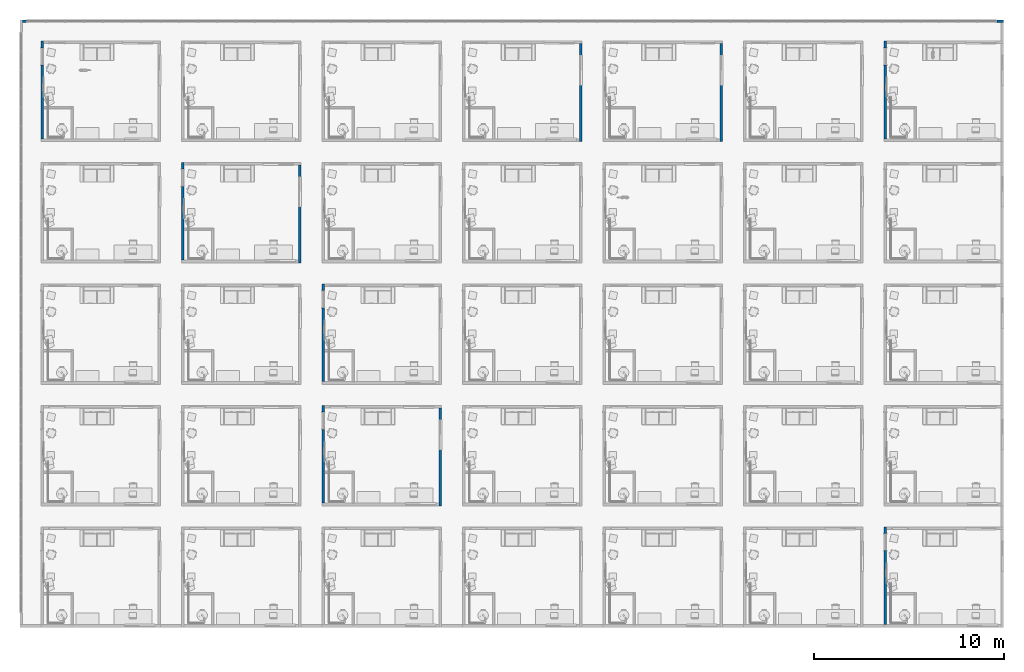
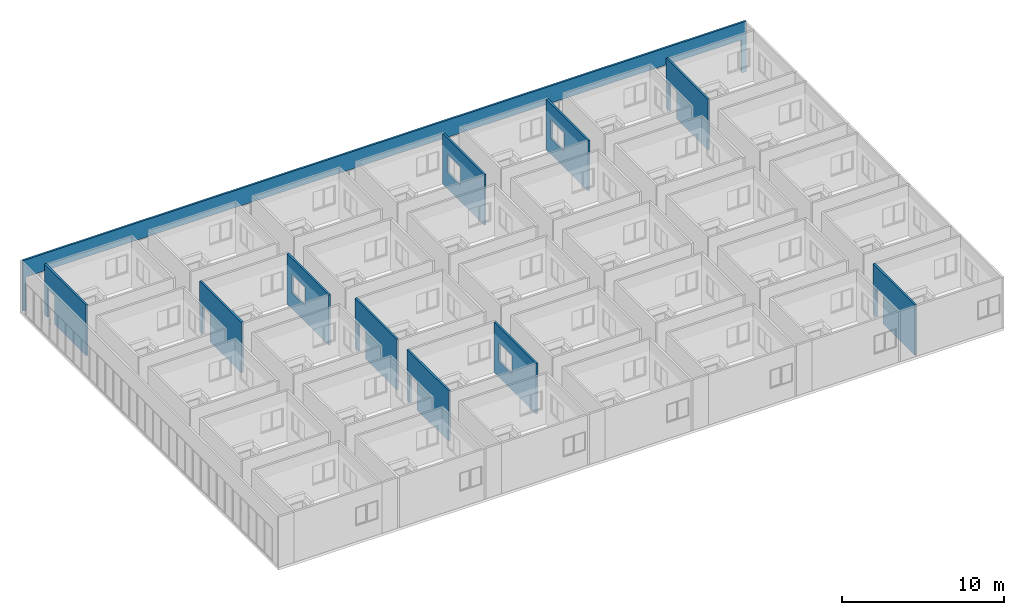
# One storey, part 11 of 71: 11 walls, 11 openings.
"""IFC4 building model written with IfcOpenShell, lengths in centimetres."""

import ifcopenshell
import ifcopenshell.guid

model = None  # the IFC model being written
_history = None  # IfcOwnerHistory: only IFC2X3 demands one
_inside = {}  # id of a spatial element -> (the spatial element, [elements in it])
_under = {}  # id of a project, library or spatial element -> (it, [spatial elements below it])
_declared = {}  # id of a project -> (the project, [libraries it declares])
_typed = {}  # id of a type object -> (the type object, [elements of that type])
_made_of = {}  # id of a material, layer set ... -> (it, [elements and type objects made of it])


def new_model(schema):
    """Start an empty IFC model of exactly this schema.

    Asked for "IFC4X3", IfcOpenShell would pick the latest addendum, in which some entities
    have other attributes; the version numbers below select the first issue.
    IFC2X3 requires an IfcOwnerHistory on every rooted entity: one is made here for all.
    """
    global model, _history
    if schema == "IFC4X3":
        model = ifcopenshell.file(schema_version=(4, 3, 0, 0))
    else:
        model = ifcopenshell.file(schema=schema)
    _inside.clear()
    _under.clear()
    _declared.clear()
    _typed.clear()
    _made_of.clear()
    _history = None
    if model.schema == "IFC2X3":
        org = make("IfcOrganization", Name="unknown")
        user = make(
            "IfcPersonAndOrganization",
            ThePerson=make("IfcPerson", FamilyName="unknown"),
            TheOrganization=org,
        )
        app = make(
            "IfcApplication",
            ApplicationDeveloper=org,
            Version="unknown",
            ApplicationFullName="unknown",
            ApplicationIdentifier="unknown",
        )
        _history = make(
            "IfcOwnerHistory",
            OwningUser=user,
            OwningApplication=app,
            ChangeAction="ADDED",
            CreationDate=0,
        )
    return model


def make(cls, **values):
    """One entity of the class cls with the attributes given. An attribute that is None is left unset."""
    return model.create_entity(
        cls, **{name: value for name, value in values.items() if value is not None}
    )


def entity(cls, *values):
    """Any entity or typed value of the class cls, its attributes in the order of the schema. None: left unset."""
    e = model.create_entity(cls)
    for i, value in enumerate(values):
        if value is not None:
            e[i] = value
    return e


def rooted(cls, **values):
    """An entity with a GlobalId (a new one), such as an element, a storey or a relation."""
    return make(cls, GlobalId=ifcopenshell.guid.new(), OwnerHistory=_history, **values)


def si_unit(unit_type, name, prefix=None):
    """IfcSIUnit, for example si_unit("LENGTHUNIT", "METRE", prefix="MILLI")."""
    return make("IfcSIUnit", UnitType=unit_type, Prefix=prefix, Name=name)


def converted_unit(unit_type, name, factor, base, dimensions=None, offset=None):
    """IfcConversionBasedUnit, such as the inch: factor (a typed value) times the base unit."""
    return make(
        "IfcConversionBasedUnit"
        if offset is None
        else "IfcConversionBasedUnitWithOffset",
        ConversionOffset=offset,
        Dimensions=None
        if dimensions is None
        else entity("IfcDimensionalExponents", *dimensions),
        UnitType=unit_type,
        Name=name,
        ConversionFactor=make(
            "IfcMeasureWithUnit", ValueComponent=factor, UnitComponent=base
        ),
    )


def derived_unit(unit_type, elements):
    """IfcDerivedUnit: a product of units, each with its exponent."""
    return make(
        "IfcDerivedUnit",
        Elements=[
            make("IfcDerivedUnitElement", Unit=unit, Exponent=power)
            for unit, power in elements
        ],
        UnitType=unit_type,
    )


def assignment(units):
    """IfcUnitAssignment: the units of a project."""
    return None if units is None else make("IfcUnitAssignment", Units=units)


def point(xyz):
    """IfcCartesianPoint."""
    return None if xyz is None else make("IfcCartesianPoint", Coordinates=xyz)


def direction(xyz):
    """IfcDirection."""
    return None if xyz is None else make("IfcDirection", DirectionRatios=xyz)


def frame(location, z_axis=None, x_axis=None):
    """IfcAxis2Placement3D, a coordinate frame: its origin and axes. An axis left out is left unset."""
    return make(
        "IfcAxis2Placement3D",
        Location=point(location),
        Axis=direction(z_axis),
        RefDirection=direction(x_axis),
    )


def origin():
    """The frame at (0, 0, 0) with its axes left unset."""
    return frame((0.0, 0.0, 0.0))


def place(relative_to, where):
    """IfcLocalPlacement: puts the frame where relative to a parent placement (None: the world)."""
    return make(
        "IfcLocalPlacement", PlacementRelTo=relative_to, RelativePlacement=where
    )


def context(
    kind, dimensions, precision=None, world=None, true_north=None, identifier=None
):
    """IfcGeometricRepresentationContext, for example the 3D "Model" context."""
    return make(
        "IfcGeometricRepresentationContext",
        ContextIdentifier=identifier,
        ContextType=kind,
        CoordinateSpaceDimension=dimensions,
        Precision=precision,
        WorldCoordinateSystem=world,
        TrueNorth=true_north,
    )


def subcontext(parent, identifier, kind, view, scale=None):
    """IfcGeometricRepresentationSubContext, for example "Body" below "Model"."""
    return make(
        "IfcGeometricRepresentationSubContext",
        ContextIdentifier=identifier,
        ContextType=kind,
        ParentContext=parent,
        TargetScale=scale,
        TargetView=view,
    )


def project(units=None, contexts=None):
    """IfcProject with its units and contexts."""
    return rooted(
        "IfcProject",
        Name="project",
        RepresentationContexts=contexts,
        UnitsInContext=assignment(units),
    )


def spatial(cls, under=None, at=None, **own):
    """A site, building, storey or space (cls), placed at a placement, below another one or the project."""
    s = rooted(cls, ObjectPlacement=at, **own)
    if under is not None:
        _under.setdefault(under.id(), (under, []))[1].append(s)
    return s


def point_list(points):
    """IfcCartesianPointList2D or 3D."""
    cls = (
        "IfcCartesianPointList2D" if len(points[0]) == 2 else "IfcCartesianPointList3D"
    )
    return make(cls, CoordList=points)


def indexed_curve(points, segments=None, self_intersect=None):
    """IfcIndexedPolyCurve: lines and arcs through numbered points (the first is 1)."""
    return make(
        "IfcIndexedPolyCurve",
        Points=point_list(points),
        Segments=segments,
        SelfIntersect=self_intersect,
    )


def outline(outer, holes=None, kind="AREA"):
    """IfcArbitraryClosedProfileDef: a profile drawn as a closed curve; with holes, ...WithVoids."""
    if holes is None:
        return make("IfcArbitraryClosedProfileDef", ProfileType=kind, OuterCurve=outer)
    return make(
        "IfcArbitraryProfileDefWithVoids",
        ProfileType=kind,
        OuterCurve=outer,
        InnerCurves=holes,
    )


def extrude(swept, where, along, depth):
    """IfcExtrudedAreaSolid: the profile swept, set in the frame where, extruded along a direction by depth."""
    return make(
        "IfcExtrudedAreaSolid",
        SweptArea=swept,
        Position=where,
        ExtrudedDirection=direction(along),
        Depth=depth,
    )


def polygons(points, faces, closed=None, point_numbers=None):
    """IfcPolygonalFaceSet: a face is its outer loop, then its inner loops; points numbered from 1."""
    made = []
    for loops in faces:
        if len(loops) == 1:
            made.append(make("IfcIndexedPolygonalFace", CoordIndex=loops[0]))
        else:
            made.append(
                make(
                    "IfcIndexedPolygonalFaceWithVoids",
                    CoordIndex=loops[0],
                    InnerCoordIndices=loops[1:],
                )
            )
    return make(
        "IfcPolygonalFaceSet",
        Coordinates=point_list(points),
        Closed=closed,
        Faces=made,
        PnIndex=point_numbers,
    )


def shape(context_of_items, identifier, shape_type, items):
    """IfcShapeRepresentation: the items that make up one representation, for example the "Body"."""
    return make(
        "IfcShapeRepresentation",
        ContextOfItems=context_of_items,
        RepresentationIdentifier=identifier,
        RepresentationType=shape_type,
        Items=items,
    )


def material(Name=None, Category=None):
    """IfcMaterial."""
    return make("IfcMaterial", Name=Name, Category=Category)


def made_of(thing, what):
    """Note that an element or type object is made of a material, layer set ...; save() writes the relation."""
    if what is not None:
        _made_of.setdefault(what.id(), (what, []))[1].append(thing)
    return thing


def type_object(cls, material=None, **own):
    """A type object (cls), such as IfcWallType, which elements share."""
    return made_of(rooted(cls, **own), material)


def element(
    cls,
    number,
    at=None,
    inside=None,
    cuts=None,
    type_object=None,
    material=None,
    context=None,
    identifier="Body",
    shape_type=None,
    held_by="IfcProductDefinitionShape",
    body=None,
    shapes=None,
    **own,
):
    """One element of the class cls, such as IfcWall. Its Tag is "e" and its number.

    at: its placement. inside: the storey or other place that contains it. cuts: it is an
    opening in that element (IfcRelVoidsElement). A single representation is given by context,
    identifier, shape_type and body (its items); several are given by shapes. held_by: the class
    of the entity that holds the representations. save() writes the other relations.
    """
    e = rooted(cls, Tag="e%d" % number, ObjectPlacement=at, **own)
    if body is not None:
        shapes = [shape(context, identifier, shape_type, body)]
    if shapes is not None:
        e.Representation = make(held_by, Representations=shapes)
    if inside is not None:
        _inside.setdefault(inside.id(), (inside, []))[1].append(e)
    if cuts is not None:
        rooted(
            "IfcRelVoidsElement", RelatingBuildingElement=cuts, RelatedOpeningElement=e
        )
    if type_object is not None:
        _typed.setdefault(type_object.id(), (type_object, []))[1].append(e)
    return made_of(e, material)


def aggregate(whole, parts):
    """IfcRelAggregates: a whole, such as a stair, and the parts it consists of."""
    return rooted("IfcRelAggregates", RelatingObject=whole, RelatedObjects=parts)


def save(model, path):
    """Write the relations noted so far, then the file.

    IfcRelAggregates (storeys below a building ...), IfcRelContainedInSpatialStructure (elements
    in a storey), IfcRelDefinesByType, IfcRelAssociatesMaterial and IfcRelDeclares: one each for
    every whole, place, type object, material and project.
    """
    for whole, parts in _under.values():
        aggregate(whole, parts)
    for where, things in _inside.values():
        rooted(
            "IfcRelContainedInSpatialStructure",
            RelatedElements=things,
            RelatingStructure=where,
        )
    for kind, things in _typed.values():
        rooted("IfcRelDefinesByType", RelatedObjects=things, RelatingType=kind)
    for what, things in _made_of.values():
        rooted("IfcRelAssociatesMaterial", RelatedObjects=things, RelatingMaterial=what)
    for by, libraries in _declared.values():
        rooted("IfcRelDeclares", RelatingContext=by, RelatedDefinitions=libraries)
    model.write(path)


model = new_model("IFC4")

# Units and contexts
model_context = context("Model", 3, precision=0.001, world=origin(), true_north=direction((6.123233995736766e-17, 1.0)))
body_context = subcontext(model_context, "Body", "Model", "MODEL_VIEW")
ifc_project = project(units=[si_unit("LENGTHUNIT", "METRE", prefix="CENTI"), si_unit("AREAUNIT", "SQUARE_METRE"), si_unit("VOLUMEUNIT", "CUBIC_METRE"), derived_unit("THERMALTRANSMITTANCEUNIT", [(si_unit("MASSUNIT", "GRAM", prefix="KILO"), 1), (si_unit("THERMODYNAMICTEMPERATUREUNIT", "KELVIN"), -1), (si_unit("TIMEUNIT", "SECOND"), -3)]), converted_unit("PLANEANGLEUNIT", "DEGREE", entity("IfcPlaneAngleMeasure", 0.017453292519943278), si_unit("PLANEANGLEUNIT", "RADIAN"), dimensions=[0, 0, 0, 0, 0, 0, 0]), derived_unit("MASSDENSITYUNIT", [(si_unit("MASSUNIT", "GRAM", prefix="KILO"), 1), (si_unit("LENGTHUNIT", "METRE"), -3)]), derived_unit("VAPORPERMEABILITYUNIT", [(si_unit("LENGTHUNIT", "METRE"), -1), (si_unit("TIMEUNIT", "SECOND"), 1)]), derived_unit("USERDEFINED", [(si_unit("MASSUNIT", "GRAM", prefix="KILO"), 1), (si_unit("TIMEUNIT", "SECOND"), -3), (si_unit("LENGTHUNIT", "METRE"), 3), (si_unit("ELECTRICCURRENTUNIT", "AMPERE"), -2)]), derived_unit("SPECIFICHEATCAPACITYUNIT", [(si_unit("THERMODYNAMICTEMPERATUREUNIT", "KELVIN"), -1), (si_unit("LENGTHUNIT", "METRE"), 2), (si_unit("TIMEUNIT", "SECOND"), -2)]), derived_unit("THERMALCONDUCTANCEUNIT", [(si_unit("MASSUNIT", "GRAM", prefix="KILO"), 1), (si_unit("THERMODYNAMICTEMPERATUREUNIT", "KELVIN"), -1), (si_unit("TIMEUNIT", "SECOND"), -3), (si_unit("LENGTHUNIT", "METRE"), 1)]), si_unit("PRESSUREUNIT", "PASCAL"), derived_unit("MODULUSOFELASTICITYUNIT", [(si_unit("MASSUNIT", "GRAM", prefix="KILO"), 1), (si_unit("LENGTHUNIT", "METRE"), -1), (si_unit("TIMEUNIT", "SECOND"), -2)]), derived_unit("THERMALEXPANSIONCOEFFICIENTUNIT", [(si_unit("THERMODYNAMICTEMPERATUREUNIT", "KELVIN"), -1)])], contexts=[model_context])

# Site, building, storey
site_placement = place(None, origin())
site = spatial("IfcSite", under=ifc_project, at=site_placement, Name="Default", CompositionType="ELEMENT")
building_placement = place(site_placement, origin())
building = spatial("IfcBuilding", under=site, at=building_placement, Name="IDS Escape Game Building", CompositionType="ELEMENT")
storey_placement = place(building_placement, frame((0.0, 0.0, 400.0)))
storey = spatial("IfcBuildingStorey", under=building, at=storey_placement, Name="01_First Floor", CompositionType="ELEMENT", Elevation=399.99999999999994)

# Wall, opening
ifc_material = material(Name="ARC_FME.g2_Fg2 Masonry_00_gen_BERSnl", Category="g - klei")
wall_type = type_object("IfcWallType", Name="Basic Wall:ARC_22.10_WA_LB_SB14_gen_BERSnl", PredefinedType="STANDARD")
wall_1_placement = place(storey_placement, frame((4428.0, 527.0, 0.0), z_axis=(0.0, 0.0, 1.0), x_axis=(0.0, -1.0, 0.0)))
wall_1 = element("IfcWall", 1, at=wall_1_placement, inside=storey, type_object=wall_type, material=ifc_material, Name="Basic Wall:ARC_22.10_WA_LB_SB14_gen_BERSnl", ObjectType="Basic Wall:ARC_22.10_WA_LB_SB14_gen_BERSnl", PredefinedType="NOTDEFINED", context=body_context, shape_type="Tessellation", body=[
    polygons([(513.9999999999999, -7.000000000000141, 379.9999999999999), (0.0, -7.000000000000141, 379.9999999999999), (0.0, -7.000000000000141, 0.0), (35.99999999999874, -7.000000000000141, 0.0), (35.99999999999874, -7.000000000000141, 215.00000000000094), (125.99999999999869, -7.000000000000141, 215.00000000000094), (125.99999999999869, -7.000000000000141, 0.0), (513.9999999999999, -7.000000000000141, 0.0), (0.0, 7.000000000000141, 379.9999999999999), (13.999999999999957, 7.000000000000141, 380.0), (513.9999999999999, 7.000000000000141, 379.9999999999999), (513.9999999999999, 7.000000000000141, 0.0), (355.9999999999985, 7.000000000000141, 0.0), (345.9999999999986, 7.000000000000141, 0.0), (125.99999999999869, 7.000000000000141, 0.0), (125.99999999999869, 7.000000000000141, 215.00000000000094), (35.99999999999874, 7.000000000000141, 215.00000000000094), (35.99999999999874, 7.000000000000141, 0.0), (13.999999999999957, 7.000000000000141, 0.0), (0.0, 7.000000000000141, 0.0)], [[[1, 2, 3, 4, 5, 6, 7, 8]], [[9, 10, 11, 12, 13, 14, 15, 16, 17, 18, 19, 20]], [[3, 20, 19, 18, 4]], [[2, 1, 11, 10, 9]], [[17, 5, 4, 18]], [[6, 16, 15, 7]], [[5, 17, 16, 6]], [[3, 2, 9, 20]], [[1, 8, 12, 11]], [[12, 8, 7, 15, 14, 13]]], closed=True),
])
opening_1_placement = place(wall_1_placement, frame((527.0, -4428.0, 0.0), z_axis=(0.0, 0.0, 1.0), x_axis=(0.0, 1.0, 0.0)))
element("IfcOpeningElement", 2, at=opening_1_placement, cuts=wall_1, Name="Basic Wall:ARC_22.10_WA_LB_SB14_gen_BERSnl", PredefinedType="OPENING", context=body_context, shape_type="SweptSolid", body=[
    extrude(outline(indexed_curve([(-137.49999999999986, -45.0), (137.49999999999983, -45.0), (137.49999999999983, 44.99999999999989), (-137.49999999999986, 44.99999999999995), (-137.49999999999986, -45.0)], self_intersect=False)), frame((4338.0, 446.0, 77.50000000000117), z_axis=(1.0, 0.0, 0.0), x_axis=(0.0, 0.0, 1.0)), (0.0, 0.0, 1.0), 166.00000000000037),
])

wall_2_placement = place(storey_placement, frame((1476.0, 1165.0, 0.0), z_axis=(0.0, 0.0, 1.0), x_axis=(0.0, -1.0, 0.0)))
wall_2 = element("IfcWall", 3, at=wall_2_placement, inside=storey, type_object=wall_type, material=ifc_material, Name="Basic Wall:ARC_22.10_WA_LB_SB14_gen_BERSnl", ObjectType="Basic Wall:ARC_22.10_WA_LB_SB14_gen_BERSnl", PredefinedType="NOTDEFINED", context=body_context, shape_type="Tessellation", body=[
    polygons([(514.0000000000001, -7.000000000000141, 379.9999999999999), (0.0, -7.000000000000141, 379.9999999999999), (0.0, -7.000000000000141, 0.0), (35.99999999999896, -7.000000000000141, 0.0), (35.99999999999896, -7.000000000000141, 215.00000000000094), (125.99999999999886, -7.000000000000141, 215.00000000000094), (125.99999999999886, -7.000000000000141, 0.0), (514.0000000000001, -7.000000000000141, 0.0), (0.0, 7.000000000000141, 379.9999999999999), (14.000000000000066, 6.9999999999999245, 380.0), (514.0000000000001, 7.000000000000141, 379.9999999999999), (514.0000000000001, 7.000000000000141, 0.0), (355.99999999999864, 6.9999999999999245, 0.0), (345.99999999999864, 6.9999999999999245, 0.0), (125.99999999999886, 7.000000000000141, 0.0), (125.99999999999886, 7.000000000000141, 215.00000000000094), (35.99999999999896, 7.000000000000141, 215.00000000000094), (35.99999999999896, 7.000000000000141, 0.0), (14.000000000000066, 6.9999999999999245, 0.0), (0.0, 7.000000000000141, 0.0)], [[[1, 2, 3, 4, 5, 6, 7, 8]], [[9, 10, 11, 12, 13, 14, 15, 16, 17, 18, 19, 20]], [[3, 20, 19, 18, 4]], [[2, 1, 11, 10, 9]], [[17, 5, 4, 18]], [[6, 16, 15, 7]], [[5, 17, 16, 6]], [[3, 2, 9, 20]], [[1, 8, 12, 11]], [[12, 8, 7, 15, 14, 13]]], closed=True),
])
opening_2_placement = place(wall_2_placement, frame((1165.0, -1476.0, 0.0), z_axis=(0.0, 0.0, 1.0), x_axis=(0.0, 1.0, 0.0)))
element("IfcOpeningElement", 4, at=opening_2_placement, cuts=wall_2, Name="Basic Wall:ARC_22.10_WA_LB_SB14_gen_BERSnl", PredefinedType="OPENING", context=body_context, shape_type="SweptSolid", body=[
    extrude(outline(indexed_curve([(-137.49999999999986, -44.99999999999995), (137.49999999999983, -44.99999999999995), (137.49999999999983, 44.99999999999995), (-137.49999999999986, 44.99999999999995), (-137.49999999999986, -44.99999999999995)], self_intersect=False)), frame((1386.0, 1084.0, 77.50000000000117), z_axis=(1.0, 0.0, 0.0), x_axis=(0.0, 0.0, 1.0)), (0.0, 0.0, 1.0), 165.99999999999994),
])

wall_3_placement = place(storey_placement, frame((2090.0, 637.0, 0.0), z_axis=(0.0, 0.0, 1.0), x_axis=(0.0, 1.0, 0.0)))
wall_3 = element("IfcWall", 5, at=wall_3_placement, inside=storey, type_object=wall_type, material=ifc_material, Name="Basic Wall:ARC_22.10_WA_LB_SB14_gen_BERSnl", ObjectType="Basic Wall:ARC_22.10_WA_LB_SB14_gen_BERSnl", PredefinedType="NOTDEFINED", context=body_context, shape_type="Tessellation", body=[
    polygons([(0.0, -6.999999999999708, 0.0), (514.0, -6.999999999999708, 0.0), (514.0, -6.999999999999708, 379.9999999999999), (0.0, -6.999999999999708, 379.9999999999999), (454.0000000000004, -6.999999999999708, 260.0000000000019), (454.0000000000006, -6.999999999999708, 120.0), (294.00000000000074, -6.999999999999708, 120.0), (294.00000000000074, -6.999999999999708, 260.0000000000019), (454.0000000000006, 7.000000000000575, 120.0), (454.0000000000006, 7.000000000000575, 260.0000000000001), (294.00000000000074, 7.000000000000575, 260.0000000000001), (294.00000000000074, 7.000000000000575, 120.0), (0.0, 7.000000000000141, 0.0), (0.0, 7.000000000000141, 379.9999999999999), (13.999999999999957, 7.000000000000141, 380.0), (514.0, 7.000000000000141, 379.9999999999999), (514.0, 7.000000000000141, 0.0), (13.999999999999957, 7.000000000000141, 0.0)], [[[1, 2, 3, 4], [5, 6, 7, 8]], [[13, 14, 15, 16, 17, 18], [9, 10, 11, 12]], [[2, 1, 13, 18, 17]], [[4, 3, 16, 15, 14]], [[10, 9, 6, 5]], [[7, 12, 11, 8]], [[10, 5, 8, 11]], [[12, 7, 6, 9]], [[1, 4, 14, 13]], [[3, 2, 17, 16]]], closed=True),
])
opening_3_placement = place(wall_3_placement, frame((-637.0, 2090.0, 120.0), z_axis=(0.0, 0.0, 1.0), x_axis=(0.0, -1.0, 0.0)))
element("IfcOpeningElement", 6, at=opening_3_placement, cuts=wall_3, Name="Basic Wall:ARC_22.10_WA_LB_SB14_gen_BERSnl", PredefinedType="OPENING", context=body_context, shape_type="Tessellation", body=[
    polygons([(2083.000000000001, 1091.0, 0.0), (2083.000000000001, 1091.0, -1.0), (2078.0000000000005, 1091.0, -1.0), (2078.0000000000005, 1091.0, 0.0), (2083.000000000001, 931.0, 0.0), (2078.0000000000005, 931.0, 0.0), (2078.0000000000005, 931.0, -1.0), (2083.000000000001, 931.0, -1.0), (2083.0000000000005, 1086.0, 0.0), (2083.0000000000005, 936.0, 0.0), (2078.000000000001, 936.0, 0.0), (2077.999999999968, 936.0, 134.99999999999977), (2077.999999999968, 1086.0, 134.99999999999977), (2078.000000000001, 1086.0, 0.0), (2102.036825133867, 1090.9999999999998, 0.0), (2083.0, 1091.0, 0.0), (2083.0, 1091.0, 140.00000000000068), (2102.036825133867, 1091.0, 140.00000000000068), (2102.036825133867, 931.0, 140.0000000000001), (2083.0, 931.0, 140.0000000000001), (2082.9999999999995, 931.0, 0.0), (2102.036825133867, 931.0, 0.0), (2083.0, 1086.0, 134.99999999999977), (2083.0, 936.0, 134.99999999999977)], [[[1, 2, 3, 4]], [[5, 6, 7, 8]], [[1, 9, 10, 5, 8, 2]], [[2, 8, 7, 3]], [[3, 7, 6, 11, 12, 13, 14, 4]], [[4, 14, 9, 1]], [[15, 16, 17, 18]], [[19, 20, 21, 22]], [[18, 17, 20, 19]], [[18, 19, 22, 15]], [[17, 16, 9, 23, 24, 10, 21, 20]], [[22, 21, 10, 9, 16, 15]], [[11, 10, 24, 12]], [[13, 23, 9, 14]], [[12, 24, 23, 13]], [[5, 10, 11, 6]]], closed=True),
])

wall_4_placement = place(storey_placement, frame((1476.0, 1803.0, 0.0), z_axis=(0.0, 0.0, 1.0), x_axis=(0.0, -1.0, 0.0)))
wall_4 = element("IfcWall", 7, at=wall_4_placement, inside=storey, type_object=wall_type, material=ifc_material, Name="Basic Wall:ARC_22.10_WA_LB_SB14_gen_BERSnl", ObjectType="Basic Wall:ARC_22.10_WA_LB_SB14_gen_BERSnl", PredefinedType="NOTDEFINED", context=body_context, shape_type="Tessellation", body=[
    polygons([(514.0000000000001, -7.000000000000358, 379.9999999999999), (-2.1657342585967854e-13, -7.000000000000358, 379.9999999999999), (-2.1657342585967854e-13, -7.000000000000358, 0.0), (35.99999999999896, -7.000000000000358, 0.0), (35.999999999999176, -7.000000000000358, 215.00000000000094), (125.99999999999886, -7.000000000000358, 215.00000000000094), (125.99999999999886, -7.000000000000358, 0.0), (514.0000000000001, -7.000000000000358, 0.0), (-2.1657342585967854e-13, 6.9999999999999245, 379.9999999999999), (14.000000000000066, 6.9999999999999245, 380.0), (514.0000000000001, 6.9999999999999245, 379.9999999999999), (514.0000000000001, 6.9999999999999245, 0.0), (355.9999999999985, 6.9999999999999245, 0.0), (345.9999999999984, 6.9999999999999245, 0.0), (125.99999999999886, 6.9999999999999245, 0.0), (125.99999999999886, 6.9999999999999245, 215.00000000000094), (35.99999999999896, 6.9999999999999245, 215.00000000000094), (35.99999999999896, 6.9999999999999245, 0.0), (14.000000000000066, 6.9999999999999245, 0.0), (-2.1657342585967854e-13, 6.9999999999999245, 0.0)], [[[1, 2, 3, 4, 5, 6, 7, 8]], [[9, 10, 11, 12, 13, 14, 15, 16, 17, 18, 19, 20]], [[3, 20, 19, 18, 4]], [[2, 1, 11, 10, 9]], [[17, 5, 4, 18]], [[6, 16, 15, 7]], [[5, 17, 16, 6]], [[3, 2, 9, 20]], [[1, 8, 12, 11]], [[12, 8, 7, 15, 14, 13]]], closed=True),
])
opening_4_placement = place(wall_4_placement, frame((1803.0, -1476.0, 0.0), z_axis=(0.0, 0.0, 1.0), x_axis=(0.0, 1.0, 0.0)))
element("IfcOpeningElement", 8, at=opening_4_placement, cuts=wall_4, Name="Basic Wall:ARC_22.10_WA_LB_SB14_gen_BERSnl", PredefinedType="OPENING", context=body_context, shape_type="SweptSolid", body=[
    extrude(outline(indexed_curve([(-137.49999999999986, -44.99999999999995), (137.49999999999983, -44.99999999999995), (137.49999999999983, 44.99999999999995), (-137.49999999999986, 44.99999999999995), (-137.49999999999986, -44.99999999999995)], self_intersect=False)), frame((1386.0, 1722.0, 77.50000000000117), z_axis=(1.0, 0.0, 0.0), x_axis=(0.0, 0.0, 1.0)), (0.0, 0.0, 1.0), 165.99999999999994),
])

wall_5_placement = place(storey_placement, frame((738.0, 2441.0, 0.0), z_axis=(0.0, 0.0, 1.0), x_axis=(0.0, -1.0, 0.0)))
wall_5 = element("IfcWall", 9, at=wall_5_placement, inside=storey, type_object=wall_type, material=ifc_material, Name="Basic Wall:ARC_22.10_WA_LB_SB14_gen_BERSnl", ObjectType="Basic Wall:ARC_22.10_WA_LB_SB14_gen_BERSnl", PredefinedType="NOTDEFINED", context=body_context, shape_type="Tessellation", body=[
    polygons([(513.9999999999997, -6.9999999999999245, 379.9999999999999), (0.0, -6.9999999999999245, 379.9999999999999), (0.0, -6.9999999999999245, 0.0), (35.99999999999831, -6.9999999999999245, 0.0), (35.99999999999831, -6.9999999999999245, 215.00000000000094), (125.99999999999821, -6.9999999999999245, 215.00000000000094), (125.99999999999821, -6.9999999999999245, 0.0), (513.9999999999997, -6.9999999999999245, 0.0), (0.0, 7.000000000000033, 379.9999999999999), (13.999999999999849, 7.000000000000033, 380.0), (513.9999999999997, 7.000000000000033, 379.9999999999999), (513.9999999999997, 7.000000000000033, 0.0), (355.99999999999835, 7.000000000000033, 0.0), (345.9999999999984, 7.000000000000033, 0.0), (125.99999999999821, 7.000000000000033, 0.0), (125.99999999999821, 7.000000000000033, 215.00000000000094), (35.99999999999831, 7.000000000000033, 215.00000000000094), (35.99999999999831, 7.000000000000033, 0.0), (13.999999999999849, 7.000000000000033, 0.0), (0.0, 7.000000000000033, 0.0)], [[[1, 2, 3, 4, 5, 6, 7, 8]], [[9, 10, 11, 12, 13, 14, 15, 16, 17, 18, 19, 20]], [[3, 20, 19, 18, 4]], [[2, 1, 11, 10, 9]], [[17, 5, 4, 18]], [[6, 16, 15, 7]], [[5, 17, 16, 6]], [[3, 2, 9, 20]], [[1, 8, 12, 11]], [[12, 8, 7, 15, 14, 13]]], closed=True),
])
opening_5_placement = place(wall_5_placement, frame((2441.0, -738.0, 0.0), z_axis=(0.0, 0.0, 1.0), x_axis=(0.0, 1.0, 0.0)))
element("IfcOpeningElement", 10, at=opening_5_placement, cuts=wall_5, Name="Basic Wall:ARC_22.10_WA_LB_SB14_gen_BERSnl", PredefinedType="OPENING", context=body_context, shape_type="SweptSolid", body=[
    extrude(outline(indexed_curve([(-137.49999999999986, -44.99999999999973), (137.49999999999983, -44.99999999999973), (137.49999999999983, 45.00000000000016), (-137.49999999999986, 45.00000000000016), (-137.49999999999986, -44.99999999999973)], self_intersect=False)), frame((648.0, 2360.0, 77.50000000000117), z_axis=(1.0, 0.0, 0.0), x_axis=(0.0, 0.0, 1.0)), (0.0, 0.0, 1.0), 165.99999999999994),
])

wall_6_placement = place(storey_placement, frame((1352.0, 1913.0, 0.0), z_axis=(0.0, 0.0, 1.0), x_axis=(0.0, 1.0, 0.0)))
wall_6 = element("IfcWall", 11, at=wall_6_placement, inside=storey, type_object=wall_type, material=ifc_material, Name="Basic Wall:ARC_22.10_WA_LB_SB14_gen_BERSnl", ObjectType="Basic Wall:ARC_22.10_WA_LB_SB14_gen_BERSnl", PredefinedType="NOTDEFINED", context=body_context, shape_type="Tessellation", body=[
    polygons([(0.0, -7.000000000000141, 0.0), (513.9999999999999, -7.000000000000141, 0.0), (513.9999999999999, -7.000000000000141, 379.9999999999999), (0.0, -7.000000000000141, 379.9999999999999), (454.0000000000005, -6.999999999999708, 260.0000000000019), (454.00000000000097, -7.000000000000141, 120.0), (294.00000000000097, -7.000000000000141, 120.0), (294.00000000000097, -6.999999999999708, 260.0000000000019), (454.00000000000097, 7.000000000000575, 120.0), (454.00000000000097, 7.000000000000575, 260.0000000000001), (294.00000000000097, 7.000000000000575, 260.0000000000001), (294.00000000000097, 7.000000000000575, 120.0), (0.0, 6.9999999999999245, 0.0), (0.0, 6.9999999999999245, 379.9999999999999), (14.000000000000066, 6.9999999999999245, 380.0), (513.9999999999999, 6.9999999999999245, 379.9999999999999), (513.9999999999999, 6.9999999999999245, 0.0), (14.000000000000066, 6.9999999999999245, 0.0)], [[[1, 2, 3, 4], [5, 6, 7, 8]], [[13, 14, 15, 16, 17, 18], [9, 10, 11, 12]], [[2, 1, 13, 18, 17]], [[4, 3, 16, 15, 14]], [[10, 9, 6, 5]], [[7, 12, 11, 8]], [[10, 5, 8, 11]], [[12, 7, 6, 9]], [[1, 4, 14, 13]], [[3, 2, 17, 16]]], closed=True),
])
opening_6_placement = place(wall_6_placement, frame((-1913.0, 1352.0, 120.0), z_axis=(0.0, 0.0, 1.0), x_axis=(0.0, -1.0, 0.0)))
element("IfcOpeningElement", 12, at=opening_6_placement, cuts=wall_6, Name="Basic Wall:ARC_22.10_WA_LB_SB14_gen_BERSnl", PredefinedType="OPENING", context=body_context, shape_type="Tessellation", body=[
    polygons([(1344.9999999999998, 2366.9999999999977, 0.0), (1344.9999999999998, 2366.9999999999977, -1.0), (1339.9999999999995, 2366.9999999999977, -1.0), (1339.9999999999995, 2366.9999999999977, 0.0), (1344.9999999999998, 2206.9999999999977, 0.0), (1339.9999999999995, 2206.9999999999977, 0.0), (1339.9999999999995, 2206.9999999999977, -1.0), (1344.9999999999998, 2206.9999999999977, -1.0), (1344.9999999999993, 2361.9999999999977, 0.0), (1344.999999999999, 2211.9999999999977, 0.0), (1339.9999999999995, 2211.9999999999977, 0.0), (1339.999999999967, 2211.9999999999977, 134.99999999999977), (1339.9999999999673, 2361.9999999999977, 134.99999999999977), (1339.9999999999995, 2361.9999999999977, 0.0), (1364.0368251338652, 2366.9999999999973, 0.0), (1344.9999999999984, 2366.9999999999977, 0.0), (1344.9999999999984, 2366.9999999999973, 140.00000000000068), (1364.0368251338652, 2366.9999999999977, 140.00000000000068), (1364.0368251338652, 2206.9999999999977, 140.0000000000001), (1344.9999999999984, 2206.9999999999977, 140.0000000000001), (1344.9999999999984, 2206.9999999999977, 0.0), (1364.0368251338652, 2206.9999999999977, 0.0), (1344.9999999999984, 2361.9999999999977, 134.99999999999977), (1344.9999999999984, 2211.9999999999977, 134.99999999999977)], [[[1, 2, 3, 4]], [[5, 6, 7, 8]], [[1, 9, 10, 5, 8, 2]], [[2, 8, 7, 3]], [[3, 7, 6, 11, 12, 13, 14, 4]], [[4, 14, 9, 1]], [[15, 16, 17, 18]], [[19, 20, 21, 22]], [[18, 17, 20, 19]], [[18, 19, 22, 15]], [[17, 16, 9, 23, 24, 10, 21, 20]], [[22, 21, 10, 9, 16, 15]], [[11, 10, 24, 12]], [[13, 23, 9, 14]], [[12, 24, 23, 13]], [[5, 10, 11, 6]]], closed=True),
])

wall_7_placement = place(storey_placement, frame((0.0, 3079.0, 0.0), z_axis=(0.0, 0.0, 1.0), x_axis=(0.0, -1.0, 0.0)))
wall_7 = element("IfcWall", 13, at=wall_7_placement, inside=storey, type_object=wall_type, material=ifc_material, Name="Basic Wall:ARC_22.10_WA_LB_SB14_gen_BERSnl", ObjectType="Basic Wall:ARC_22.10_WA_LB_SB14_gen_BERSnl", PredefinedType="NOTDEFINED", context=body_context, shape_type="Tessellation", body=[
    polygons([(513.9999999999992, -7.0, 379.9999999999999), (4.331468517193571e-13, -7.0, 379.9999999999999), (4.331468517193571e-13, -7.0, 0.0), (35.99999999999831, -7.0, 0.0), (35.99999999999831, -7.000000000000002, 215.00000000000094), (125.99999999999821, -7.000000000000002, 215.00000000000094), (125.99999999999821, -7.0, 0.0), (513.9999999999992, -7.0, 0.0), (4.331468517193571e-13, 7.0, 379.9999999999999), (13.999999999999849, 7.0, 380.0), (513.9999999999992, 7.0, 379.9999999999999), (513.9999999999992, 7.0, 0.0), (355.99999999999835, 7.0, 0.0), (345.9999999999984, 7.0, 0.0), (125.99999999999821, 7.0, 0.0), (125.99999999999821, 6.9999999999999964, 215.00000000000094), (35.99999999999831, 7.000000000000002, 215.00000000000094), (35.99999999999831, 7.0, 0.0), (13.999999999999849, 7.0, 0.0), (4.331468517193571e-13, 7.0, 0.0)], [[[1, 2, 3, 4, 5, 6, 7, 8]], [[9, 10, 11, 12, 13, 14, 15, 16, 17, 18, 19, 20]], [[3, 20, 19, 18, 4]], [[2, 1, 11, 10, 9]], [[17, 5, 4, 18]], [[6, 16, 15, 7]], [[5, 17, 16, 6]], [[3, 2, 9, 20]], [[1, 8, 12, 11]], [[12, 8, 7, 15, 14, 13]]], closed=True),
])
opening_7_placement = place(wall_7_placement, frame((3079.0, 0.0, 0.0), z_axis=(0.0, 0.0, 1.0), x_axis=(0.0, 1.0, 0.0)))
element("IfcOpeningElement", 14, at=opening_7_placement, cuts=wall_7, Name="Basic Wall:ARC_22.10_WA_LB_SB14_gen_BERSnl", PredefinedType="OPENING", context=body_context, shape_type="SweptSolid", body=[
    extrude(outline(indexed_curve([(-137.49999999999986, -44.99999999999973), (137.49999999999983, -44.99999999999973), (137.49999999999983, 45.00000000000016), (-137.49999999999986, 45.00000000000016), (-137.49999999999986, -44.99999999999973)], self_intersect=False)), frame((-90.0, 2998.0, 77.50000000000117), z_axis=(1.0, 0.0, 0.0), x_axis=(0.0, 0.0, 1.0)), (0.0, 0.0, 1.0), 166.0),
])

wall_8_placement = place(storey_placement, frame((2828.0, 2551.0, 0.0), z_axis=(0.0, 0.0, 1.0), x_axis=(0.0, 1.0, 0.0)))
wall_8 = element("IfcWall", 15, at=wall_8_placement, inside=storey, type_object=wall_type, material=ifc_material, Name="Basic Wall:ARC_22.10_WA_LB_SB14_gen_BERSnl", ObjectType="Basic Wall:ARC_22.10_WA_LB_SB14_gen_BERSnl", PredefinedType="NOTDEFINED", context=body_context, shape_type="Tessellation", body=[
    polygons([(0.0, -6.999999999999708, 0.0), (513.9999999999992, -6.999999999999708, 0.0), (513.9999999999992, -6.999999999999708, 379.9999999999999), (0.0, -6.999999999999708, 379.9999999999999), (454.00000000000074, -6.999999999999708, 260.0000000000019), (454.00000000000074, -6.999999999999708, 120.0), (294.00000000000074, -6.999999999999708, 120.0), (294.00000000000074, -6.999999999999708, 260.0000000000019), (454.00000000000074, 7.000000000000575, 120.0), (454.00000000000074, 7.000000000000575, 260.0000000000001), (294.00000000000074, 7.000000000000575, 260.0000000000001), (294.00000000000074, 7.000000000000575, 120.0), (0.0, 7.000000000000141, 0.0), (0.0, 7.000000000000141, 379.9999999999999), (13.999999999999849, 7.000000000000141, 380.0), (513.9999999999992, 7.000000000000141, 379.9999999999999), (513.9999999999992, 7.000000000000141, 0.0), (13.999999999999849, 7.000000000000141, 0.0)], [[[1, 2, 3, 4], [5, 6, 7, 8]], [[13, 14, 15, 16, 17, 18], [9, 10, 11, 12]], [[2, 1, 13, 18, 17]], [[4, 3, 16, 15, 14]], [[10, 9, 6, 5]], [[7, 12, 11, 8]], [[10, 5, 8, 11]], [[12, 7, 6, 9]], [[1, 4, 14, 13]], [[3, 2, 17, 16]]], closed=True),
])
opening_8_placement = place(wall_8_placement, frame((-2551.0, 2828.0, 120.0), z_axis=(0.0, 0.0, 1.0), x_axis=(0.0, -1.0, 0.0)))
element("IfcOpeningElement", 16, at=opening_8_placement, cuts=wall_8, Name="Basic Wall:ARC_22.10_WA_LB_SB14_gen_BERSnl", PredefinedType="OPENING", context=body_context, shape_type="Tessellation", body=[
    polygons([(2820.999999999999, 3005.000000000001, 0.0), (2820.999999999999, 3005.000000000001, -1.0), (2815.999999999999, 3005.000000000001, -1.0), (2815.999999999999, 3005.000000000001, 0.0), (2820.999999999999, 2845.000000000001, 0.0), (2815.999999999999, 2845.000000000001, 0.0), (2815.999999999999, 2845.000000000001, -1.0), (2820.999999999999, 2845.000000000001, -1.0), (2820.9999999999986, 3000.000000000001, 0.0), (2820.9999999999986, 2850.000000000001, 0.0), (2815.9999999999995, 2850.0000000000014, 0.0), (2815.999999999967, 2850.0000000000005, 134.99999999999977), (2815.999999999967, 3000.0000000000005, 134.99999999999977), (2815.9999999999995, 3000.000000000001, 0.0), (2840.036825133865, 3005.000000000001, 0.0), (2820.999999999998, 3005.000000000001, 0.0), (2820.999999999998, 3005.000000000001, 140.00000000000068), (2840.036825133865, 3005.000000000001, 140.00000000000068), (2840.036825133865, 2845.000000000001, 140.0000000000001), (2820.999999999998, 2845.000000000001, 140.0000000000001), (2820.9999999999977, 2845.000000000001, 0.0), (2840.036825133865, 2845.000000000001, 0.0), (2820.999999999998, 3000.0000000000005, 134.99999999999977), (2820.999999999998, 2850.0000000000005, 134.99999999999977)], [[[1, 2, 3, 4]], [[5, 6, 7, 8]], [[1, 9, 10, 5, 8, 2]], [[2, 8, 7, 3]], [[3, 7, 6, 11, 12, 13, 14, 4]], [[4, 14, 9, 1]], [[15, 16, 17, 18]], [[19, 20, 21, 22]], [[18, 17, 20, 19]], [[18, 19, 22, 15]], [[17, 16, 9, 23, 24, 10, 21, 20]], [[22, 21, 10, 9, 16, 15]], [[11, 10, 24, 12]], [[13, 23, 9, 14]], [[12, 24, 23, 13]], [[5, 10, 11, 6]]], closed=True),
])

wall_9_placement = place(storey_placement, frame((3566.0, 2551.0, 0.0), z_axis=(0.0, 0.0, 1.0), x_axis=(0.0, 1.0, 0.0)))
wall_9 = element("IfcWall", 17, at=wall_9_placement, inside=storey, type_object=wall_type, material=ifc_material, Name="Basic Wall:ARC_22.10_WA_LB_SB14_gen_BERSnl", ObjectType="Basic Wall:ARC_22.10_WA_LB_SB14_gen_BERSnl", PredefinedType="NOTDEFINED", context=body_context, shape_type="Tessellation", body=[
    polygons([(0.0, -6.999999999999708, 0.0), (513.9999999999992, -6.999999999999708, 0.0), (513.9999999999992, -6.999999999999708, 379.9999999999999), (0.0, -6.999999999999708, 379.9999999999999), (454.00000000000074, -6.999999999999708, 260.0000000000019), (454.00000000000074, -6.999999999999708, 120.0), (294.00000000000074, -6.999999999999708, 120.0), (294.00000000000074, -6.999999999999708, 260.0000000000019), (454.00000000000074, 7.000000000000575, 120.0), (454.00000000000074, 7.000000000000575, 260.0000000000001), (294.00000000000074, 7.000000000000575, 260.0000000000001), (294.00000000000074, 7.000000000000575, 120.0), (0.0, 7.000000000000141, 0.0), (0.0, 7.000000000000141, 379.9999999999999), (13.999999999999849, 7.000000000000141, 380.0), (513.9999999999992, 7.000000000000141, 379.9999999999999), (513.9999999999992, 7.000000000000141, 0.0), (13.999999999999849, 7.000000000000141, 0.0)], [[[1, 2, 3, 4], [5, 6, 7, 8]], [[13, 14, 15, 16, 17, 18], [9, 10, 11, 12]], [[2, 1, 13, 18, 17]], [[4, 3, 16, 15, 14]], [[10, 9, 6, 5]], [[7, 12, 11, 8]], [[10, 5, 8, 11]], [[12, 7, 6, 9]], [[1, 4, 14, 13]], [[3, 2, 17, 16]]], closed=True),
])
opening_9_placement = place(wall_9_placement, frame((-2551.0, 3566.0, 120.0), z_axis=(0.0, 0.0, 1.0), x_axis=(0.0, -1.0, 0.0)))
element("IfcOpeningElement", 18, at=opening_9_placement, cuts=wall_9, Name="Basic Wall:ARC_22.10_WA_LB_SB14_gen_BERSnl", PredefinedType="OPENING", context=body_context, shape_type="Tessellation", body=[
    polygons([(3558.9999999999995, 3005.000000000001, 0.0), (3558.9999999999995, 3005.000000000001, -1.0), (3553.9999999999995, 3005.000000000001, -1.0), (3553.9999999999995, 3005.000000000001, 0.0), (3558.9999999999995, 2845.000000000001, 0.0), (3553.9999999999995, 2845.000000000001, 0.0), (3553.9999999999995, 2845.000000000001, -1.0), (3558.9999999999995, 2845.000000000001, -1.0), (3558.9999999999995, 3000.000000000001, 0.0), (3558.999999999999, 2850.000000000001, 0.0), (3554.0, 2850.0000000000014, 0.0), (3553.999999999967, 2850.0000000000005, 134.99999999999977), (3553.999999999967, 3000.0000000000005, 134.99999999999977), (3554.0, 3000.000000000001, 0.0), (3578.0368251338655, 3005.000000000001, 0.0), (3558.999999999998, 3005.000000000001, 0.0), (3558.9999999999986, 3005.000000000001, 140.00000000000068), (3578.0368251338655, 3005.000000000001, 140.00000000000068), (3578.0368251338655, 2845.000000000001, 140.0000000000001), (3558.999999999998, 2845.000000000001, 140.0000000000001), (3558.999999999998, 2845.000000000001, 0.0), (3578.0368251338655, 2845.000000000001, 0.0), (3558.9999999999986, 3000.0000000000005, 134.99999999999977), (3558.999999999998, 2850.0000000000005, 134.99999999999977)], [[[1, 2, 3, 4]], [[5, 6, 7, 8]], [[1, 9, 10, 5, 8, 2]], [[2, 8, 7, 3]], [[3, 7, 6, 11, 12, 13, 14, 4]], [[4, 14, 9, 1]], [[15, 16, 17, 18]], [[19, 20, 21, 22]], [[18, 17, 20, 19]], [[18, 19, 22, 15]], [[17, 16, 9, 23, 24, 10, 21, 20]], [[22, 21, 10, 9, 16, 15]], [[11, 10, 24, 12]], [[13, 23, 9, 14]], [[12, 24, 23, 13]], [[5, 10, 11, 6]]], closed=True),
])

wall_10_placement = place(storey_placement, frame((4428.0, 3079.0, 0.0), z_axis=(0.0, 0.0, 1.0), x_axis=(0.0, -1.0, 0.0)))
wall_10 = element("IfcWall", 19, at=wall_10_placement, inside=storey, type_object=wall_type, material=ifc_material, Name="Basic Wall:ARC_22.10_WA_LB_SB14_gen_BERSnl", ObjectType="Basic Wall:ARC_22.10_WA_LB_SB14_gen_BERSnl", PredefinedType="NOTDEFINED", context=body_context, shape_type="Tessellation", body=[
    polygons([(513.9999999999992, -7.000000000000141, 379.9999999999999), (4.331468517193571e-13, -7.000000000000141, 379.9999999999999), (4.331468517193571e-13, -7.000000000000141, 0.0), (35.99999999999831, -7.000000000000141, 0.0), (35.99999999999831, -7.000000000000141, 215.00000000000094), (125.99999999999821, -7.000000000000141, 215.00000000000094), (125.99999999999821, -7.000000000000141, 0.0), (513.9999999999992, -7.000000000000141, 0.0), (4.331468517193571e-13, 7.000000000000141, 379.9999999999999), (13.999999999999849, 7.000000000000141, 380.0), (513.9999999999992, 7.000000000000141, 379.9999999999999), (513.9999999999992, 7.000000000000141, 0.0), (355.99999999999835, 7.000000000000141, 0.0), (345.9999999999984, 7.000000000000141, 0.0), (125.99999999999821, 7.000000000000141, 0.0), (125.99999999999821, 7.000000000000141, 215.00000000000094), (35.99999999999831, 7.000000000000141, 215.00000000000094), (35.99999999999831, 7.000000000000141, 0.0), (13.999999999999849, 7.000000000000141, 0.0), (4.331468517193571e-13, 7.000000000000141, 0.0)], [[[1, 2, 3, 4, 5, 6, 7, 8]], [[9, 10, 11, 12, 13, 14, 15, 16, 17, 18, 19, 20]], [[3, 20, 19, 18, 4]], [[2, 1, 11, 10, 9]], [[17, 5, 4, 18]], [[6, 16, 15, 7]], [[5, 17, 16, 6]], [[3, 2, 9, 20]], [[1, 8, 12, 11]], [[12, 8, 7, 15, 14, 13]]], closed=True),
])
opening_10_placement = place(wall_10_placement, frame((3079.0, -4428.0, 0.0), z_axis=(0.0, 0.0, 1.0), x_axis=(0.0, 1.0, 0.0)))
element("IfcOpeningElement", 20, at=opening_10_placement, cuts=wall_10, Name="Basic Wall:ARC_22.10_WA_LB_SB14_gen_BERSnl", PredefinedType="OPENING", context=body_context, shape_type="SweptSolid", body=[
    extrude(outline(indexed_curve([(-137.49999999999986, -44.99999999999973), (137.49999999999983, -44.99999999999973), (137.49999999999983, 45.00000000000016), (-137.49999999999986, 45.00000000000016), (-137.49999999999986, -44.99999999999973)], self_intersect=False)), frame((4338.0, 2998.0, 77.50000000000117), z_axis=(1.0, 0.0, 0.0), x_axis=(0.0, 0.0, 1.0)), (0.0, 0.0, 1.0), 166.00000000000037),
])

wall_11_placement = place(storey_placement, frame((-103.0, 3182.0, 0.0)))
wall_11 = element("IfcWall", 21, at=wall_11_placement, inside=storey, type_object=wall_type, material=ifc_material, Name="Basic Wall:ARC_22.10_WA_LB_SB14_gen_BERSnl", ObjectType="Basic Wall:ARC_22.10_WA_LB_SB14_gen_BERSnl", PredefinedType="NOTDEFINED", context=body_context, shape_type="Tessellation", body=[
    polygons([(5151.9999999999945, -6.999999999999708, 379.9999999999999), (5137.9999999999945, -6.999999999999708, 380.0), (2.705124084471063e-13, -6.999999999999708, 379.9999999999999), (1.333146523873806e-14, -6.999999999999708, -5.4143356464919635e-14), (20.000000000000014, -6.999999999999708, -5.4143356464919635e-14), (20.000000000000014, -6.999999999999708, 249.99999999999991), (5118.0, -6.999999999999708, 249.99999999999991), (5118.0, -6.999999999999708, -5.4143356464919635e-14), (5137.9999999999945, -6.999999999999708, -5.4143356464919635e-14), (5151.9999999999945, -6.999999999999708, -5.4143356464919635e-14), (7.583842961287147e-14, 7.000000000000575, 379.9999999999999), (5151.9999999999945, 7.000000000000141, 379.9999999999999), (5151.9999999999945, 7.000000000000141, -5.4143356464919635e-14), (5118.0, 7.000000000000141, -5.4143356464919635e-14), (5118.0, 7.000000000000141, 249.99999999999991), (20.00000000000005, 7.000000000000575, 249.99999999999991), (19.999999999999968, 7.000000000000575, -5.4143356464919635e-14), (2.2473265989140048e-13, 7.000000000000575, -5.4143356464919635e-14)], [[[1, 2, 3, 4, 5, 6, 7, 8, 9, 10]], [[11, 12, 13, 14, 15, 16, 17, 18]], [[4, 18, 17, 5]], [[3, 2, 1, 12, 11]], [[4, 3, 11, 18]], [[1, 10, 13, 12]], [[16, 6, 5, 17]], [[6, 16, 15, 7]], [[7, 15, 14, 8]], [[13, 10, 9, 8, 14]]], closed=True),
])
opening_11_placement = place(wall_11_placement, origin())
element("IfcOpeningElement", 22, at=opening_11_placement, cuts=wall_11, Name="Basic Wall:ARC_22.10_WA_LB_SB14_gen_BERSnl", PredefinedType="OPENING", context=body_context, shape_type="SweptSolid", body=[
    extrude(outline(indexed_curve([(-125.0, -2549.0), (124.99999999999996, -2549.0), (124.99999999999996, 2549.0), (-125.0, 2549.0), (-125.0, -2549.0)], self_intersect=False)), frame((2569.0, -22.239999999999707, 125.0), z_axis=(0.0, 1.0, 0.0), x_axis=(0.0, 0.0, 1.0)), (0.0, 0.0, 1.0), 44.47999999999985),
])

save(model, "model.ifc")
